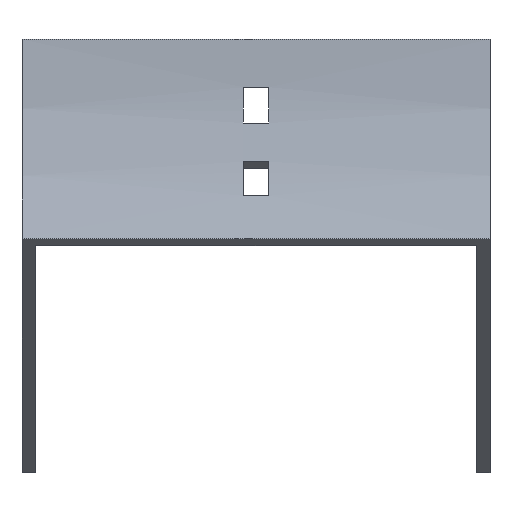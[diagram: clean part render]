
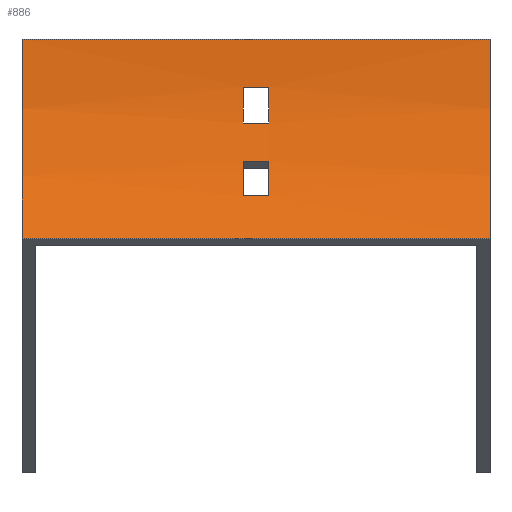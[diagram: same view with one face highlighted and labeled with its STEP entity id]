
A CAD part, front view. The second image highlights one B-rep face of the part: STEP entity #886.
In plain terms, the highlighted cylindrical face has radius 100 mm (diameter 200 mm), a partial arc.
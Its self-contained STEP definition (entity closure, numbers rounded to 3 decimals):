
#41 = FACE_BOUND ( 'NONE', #713, .T. ) ;
#59 = CYLINDRICAL_SURFACE ( 'NONE', #783, 100. ) ;
#60 = EDGE_CURVE ( 'NONE', #206, #1311, #1214, .T. ) ;
#76 = ORIENTED_EDGE ( 'NONE', *, *, #676, .F. ) ;
#78 = DIRECTION ( 'NONE',  ( -1., 0., 0. ) ) ;
#95 = CIRCLE ( 'NONE', #621, 100. ) ;
#102 = CARTESIAN_POINT ( 'NONE',  ( 3.25, -2.23, -21. ) ) ;
#152 = LINE ( 'NONE', #532, #225 ) ;
#160 = AXIS2_PLACEMENT_3D ( 'NONE', #351, #210, #1153 ) ;
#178 = CARTESIAN_POINT ( 'NONE',  ( 3.25, -100., 0. ) ) ;
#200 = AXIS2_PLACEMENT_3D ( 'NONE', #284, #827, #1050 ) ;
#206 = VERTEX_POINT ( 'NONE', #879 ) ;
#208 = VERTEX_POINT ( 'NONE', #1405 ) ;
#210 = DIRECTION ( 'NONE',  ( -1., 0., 0. ) ) ;
#215 = VERTEX_POINT ( 'NONE', #768 ) ;
#225 = VECTOR ( 'NONE', #404, 1000. ) ;
#226 = ORIENTED_EDGE ( 'NONE', *, *, #828, .F. ) ;
#269 = LINE ( 'NONE', #663, #1134 ) ;
#272 = DIRECTION ( 'NONE',  ( -1., 0., 0. ) ) ;
#284 = CARTESIAN_POINT ( 'NONE',  ( 58.75, -100., 0. ) ) ;
#299 = DIRECTION ( 'NONE',  ( -1., 0., 0. ) ) ;
#311 = DIRECTION ( 'NONE',  ( 0., 0., -1. ) ) ;
#315 = VERTEX_POINT ( 'NONE', #780 ) ;
#319 = CARTESIAN_POINT ( 'NONE',  ( -3.25, -100., 0. ) ) ;
#351 = CARTESIAN_POINT ( 'NONE',  ( -58.75, -100., 0. ) ) ;
#393 = CARTESIAN_POINT ( 'NONE',  ( 58.75, -8.023, -39.246 ) ) ;
#404 = DIRECTION ( 'NONE',  ( -1., 0., 0. ) ) ;
#448 = EDGE_LOOP ( 'NONE', ( #878, #451, #76, #1175 ) ) ;
#451 = ORIENTED_EDGE ( 'NONE', *, *, #742, .F. ) ;
#474 = CIRCLE ( 'NONE', #782, 100. ) ;
#497 = CARTESIAN_POINT ( 'NONE',  ( -3.25, -100., 0. ) ) ;
#532 = CARTESIAN_POINT ( 'NONE',  ( 58.75, -13.397, -50. ) ) ;
#539 = DIRECTION ( 'NONE',  ( 1., 0., 0. ) ) ;
#547 = ORIENTED_EDGE ( 'NONE', *, *, #940, .F. ) ;
#569 = EDGE_CURVE ( 'NONE', #208, #206, #474, .T. ) ;
#581 = ORIENTED_EDGE ( 'NONE', *, *, #1493, .F. ) ;
#592 = CIRCLE ( 'NONE', #807, 100. ) ;
#608 = DIRECTION ( 'NONE',  ( 0., 0., 1. ) ) ;
#621 = AXIS2_PLACEMENT_3D ( 'NONE', #913, #625, #1401 ) ;
#625 = DIRECTION ( 'NONE',  ( 1., 0., 0. ) ) ;
#663 = CARTESIAN_POINT ( 'NONE',  ( 58.75, 0., 0. ) ) ;
#666 = LINE ( 'NONE', #393, #1450 ) ;
#676 = EDGE_CURVE ( 'NONE', #1260, #1007, #696, .T. ) ;
#691 = CARTESIAN_POINT ( 'NONE',  ( 58.75, 0., 0. ) ) ;
#696 = CIRCLE ( 'NONE', #200, 100. ) ;
#698 = EDGE_CURVE ( 'NONE', #1260, #1196, #269, .T. ) ;
#704 = ORIENTED_EDGE ( 'NONE', *, *, #957, .T. ) ;
#713 = EDGE_LOOP ( 'NONE', ( #226, #1609, #547, #581 ) ) ;
#742 = EDGE_CURVE ( 'NONE', #1007, #315, #152, .T. ) ;
#744 = LINE ( 'NONE', #1027, #838 ) ;
#768 = CARTESIAN_POINT ( 'NONE',  ( -3.25, -4.829, -30.699 ) ) ;
#780 = CARTESIAN_POINT ( 'NONE',  ( -58.75, -13.397, -50. ) ) ;
#782 = AXIS2_PLACEMENT_3D ( 'NONE', #497, #1274, #1529 ) ;
#783 = AXIS2_PLACEMENT_3D ( 'NONE', #1629, #78, #608 ) ;
#786 = EDGE_CURVE ( 'NONE', #1311, #1426, #1620, .T. ) ;
#807 = AXIS2_PLACEMENT_3D ( 'NONE', #319, #998, #311 ) ;
#811 = DIRECTION ( 'NONE',  ( -1., 0., 0. ) ) ;
#823 = CARTESIAN_POINT ( 'NONE',  ( 58.75, -0.723, -12. ) ) ;
#827 = DIRECTION ( 'NONE',  ( -1., 0., 0. ) ) ;
#828 = EDGE_CURVE ( 'NONE', #215, #1483, #592, .T. ) ;
#838 = VECTOR ( 'NONE', #1287, 1000. ) ;
#878 = ORIENTED_EDGE ( 'NONE', *, *, #1329, .T. ) ;
#879 = CARTESIAN_POINT ( 'NONE',  ( -3.25, -0.723, -12. ) ) ;
#886 = ADVANCED_FACE ( 'NONE', ( #1236, #1217, #41 ), #59, .F. ) ;
#913 = CARTESIAN_POINT ( 'NONE',  ( 3.25, -100., 0. ) ) ;
#920 = CARTESIAN_POINT ( 'NONE',  ( -3.25, -8.023, -39.246 ) ) ;
#927 = LINE ( 'NONE', #1067, #1152 ) ;
#940 = EDGE_CURVE ( 'NONE', #1364, #1206, #95, .T. ) ;
#957 = EDGE_CURVE ( 'NONE', #1426, #208, #744, .T. ) ;
#982 = DIRECTION ( 'NONE',  ( 0., 0., -1. ) ) ;
#998 = DIRECTION ( 'NONE',  ( -1., 0., 0. ) ) ;
#1007 = VERTEX_POINT ( 'NONE', #1141 ) ;
#1027 = CARTESIAN_POINT ( 'NONE',  ( 58.75, -2.23, -21. ) ) ;
#1042 = ORIENTED_EDGE ( 'NONE', *, *, #786, .T. ) ;
#1046 = EDGE_LOOP ( 'NONE', ( #704, #1583, #1203, #1042 ) ) ;
#1050 = DIRECTION ( 'NONE',  ( 0., 0., 1. ) ) ;
#1067 = CARTESIAN_POINT ( 'NONE',  ( 58.75, -4.829, -30.699 ) ) ;
#1077 = DIRECTION ( 'NONE',  ( 1., 0., 0. ) ) ;
#1103 = AXIS2_PLACEMENT_3D ( 'NONE', #178, #299, #982 ) ;
#1134 = VECTOR ( 'NONE', #811, 1000. ) ;
#1141 = CARTESIAN_POINT ( 'NONE',  ( 58.75, -13.397, -50. ) ) ;
#1152 = VECTOR ( 'NONE', #272, 1000. ) ;
#1153 = DIRECTION ( 'NONE',  ( 0., 0., 1. ) ) ;
#1175 = ORIENTED_EDGE ( 'NONE', *, *, #698, .T. ) ;
#1196 = VERTEX_POINT ( 'NONE', #1635 ) ;
#1203 = ORIENTED_EDGE ( 'NONE', *, *, #60, .T. ) ;
#1206 = VERTEX_POINT ( 'NONE', #1372 ) ;
#1214 = LINE ( 'NONE', #823, #1566 ) ;
#1217 = FACE_BOUND ( 'NONE', #1046, .T. ) ;
#1233 = CIRCLE ( 'NONE', #160, 100. ) ;
#1236 = FACE_OUTER_BOUND ( 'NONE', #448, .T. ) ;
#1260 = VERTEX_POINT ( 'NONE', #691 ) ;
#1274 = DIRECTION ( 'NONE',  ( 1., 0., 0. ) ) ;
#1287 = DIRECTION ( 'NONE',  ( -1., 0., 0. ) ) ;
#1311 = VERTEX_POINT ( 'NONE', #1502 ) ;
#1329 = EDGE_CURVE ( 'NONE', #1196, #315, #1233, .T. ) ;
#1364 = VERTEX_POINT ( 'NONE', #1424 ) ;
#1372 = CARTESIAN_POINT ( 'NONE',  ( 3.25, -4.829, -30.699 ) ) ;
#1401 = DIRECTION ( 'NONE',  ( 0., 0., 1. ) ) ;
#1405 = CARTESIAN_POINT ( 'NONE',  ( -3.25, -2.23, -21. ) ) ;
#1424 = CARTESIAN_POINT ( 'NONE',  ( 3.25, -8.023, -39.246 ) ) ;
#1426 = VERTEX_POINT ( 'NONE', #102 ) ;
#1450 = VECTOR ( 'NONE', #539, 1000. ) ;
#1483 = VERTEX_POINT ( 'NONE', #920 ) ;
#1493 = EDGE_CURVE ( 'NONE', #1483, #1364, #666, .T. ) ;
#1502 = CARTESIAN_POINT ( 'NONE',  ( 3.25, -0.723, -12. ) ) ;
#1522 = EDGE_CURVE ( 'NONE', #1206, #215, #927, .T. ) ;
#1529 = DIRECTION ( 'NONE',  ( 0., 0., 1. ) ) ;
#1566 = VECTOR ( 'NONE', #1077, 1000. ) ;
#1583 = ORIENTED_EDGE ( 'NONE', *, *, #569, .T. ) ;
#1609 = ORIENTED_EDGE ( 'NONE', *, *, #1522, .F. ) ;
#1620 = CIRCLE ( 'NONE', #1103, 100. ) ;
#1629 = CARTESIAN_POINT ( 'NONE',  ( 58.75, -100., 0. ) ) ;
#1635 = CARTESIAN_POINT ( 'NONE',  ( -58.75, 0., 0. ) ) ;
